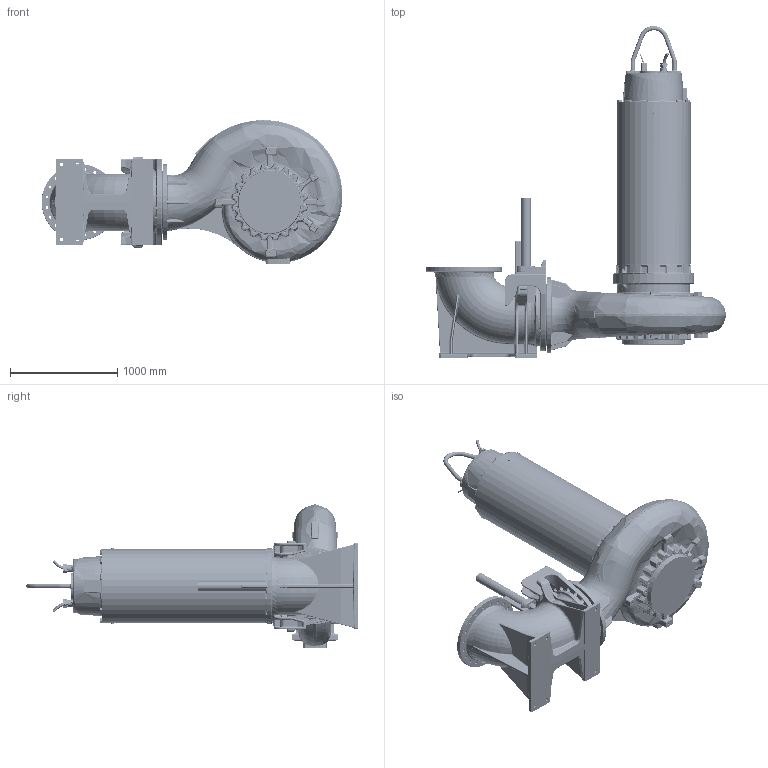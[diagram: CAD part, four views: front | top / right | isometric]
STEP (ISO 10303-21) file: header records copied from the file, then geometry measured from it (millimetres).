
FILE_DESCRIPTION (( 'STEP AP214' ), '1' );
FILE_NAME ('PE7_XFP500U-CH3_WET_C.STEP', '2017-04-03T07:18:36', ( '' ), ( '' ), 'SwSTEP 2.0', 'SolidWorks 2017', '' );
FILE_SCHEMA (( 'AUTOMOTIVE_DESIGN' ));
Length unit declared in the file: millimetre
Products named in the file (1): PE7_XFP500U-CH3_WET_C
Bounding box: 2801.98 x 3092.76 x 1338.66 mm (x, y, z)
Volume: 1605381366.2 mm3; surface area: 17904446.4 mm2
Topology: 4 solids, 16 shells, 6061 faces, 14628 edges, 8375 vertices
Faces by surface type: bspline 1689, cylinder 1667, plane 1170, torus 761, cone 499, sphere 275
Entity records: 363378 total; most frequent: CARTESIAN_POINT 169699, ORIENTED_EDGE 28554, DIRECTION 24455, EDGE_CURVE 14277, AXIS2_PLACEMENT_3D 10111, VERTEX_POINT 8370, EDGE_LOOP 6379, UNCERTAINTY_MEASURE_WITH_UNIT 6067
